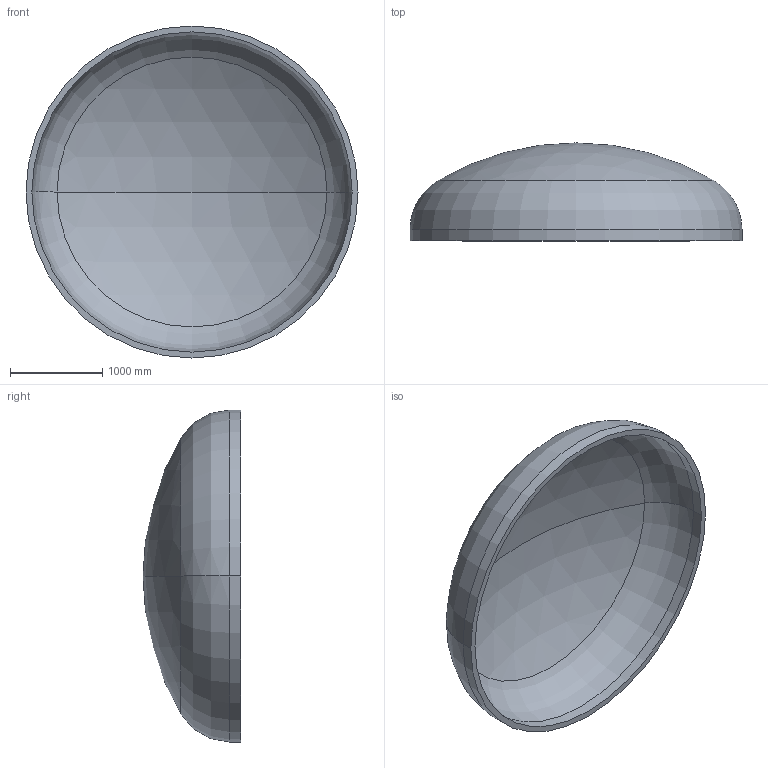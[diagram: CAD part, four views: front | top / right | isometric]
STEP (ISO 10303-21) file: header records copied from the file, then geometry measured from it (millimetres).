
FILE_DESCRIPTION (( 'STEP AP203' ), '1' );
FILE_NAME ('DIN 28013 Korbbogenform_-_Boden DIN 28013 - 3600 x 120 - I - s=64.step', '2016-07-01T20:36:14', ( '' ), ( '' ), 'SwSTEP 2.0', 'SolidWorks 2013', '' );
FILE_SCHEMA (( 'CONFIG_CONTROL_DESIGN' ));
Length unit declared in the file: millimetre
Products named in the file (1): DIN 28013 Korbbogenform_-_Boden DIN 28013 - 3600 x 120 - I - s=64
Bounding box: 3600 x 1061.29 x 3600 mm (x, y, z)
Volume: 966837410.1 mm3; surface area: 30933192.1 mm2
Topology: 1 solids, 1 shells, 13 faces, 24 edges, 14 vertices
Faces by surface type: torus 4, cylinder 4, sphere 4, plane 1
Entity records: 407 total; most frequent: DIRECTION 72, CARTESIAN_POINT 52, ORIENTED_EDGE 48, AXIS2_PLACEMENT_3D 34, EDGE_CURVE 24, CIRCLE 20, VERTEX_POINT 14, EDGE_LOOP 14
